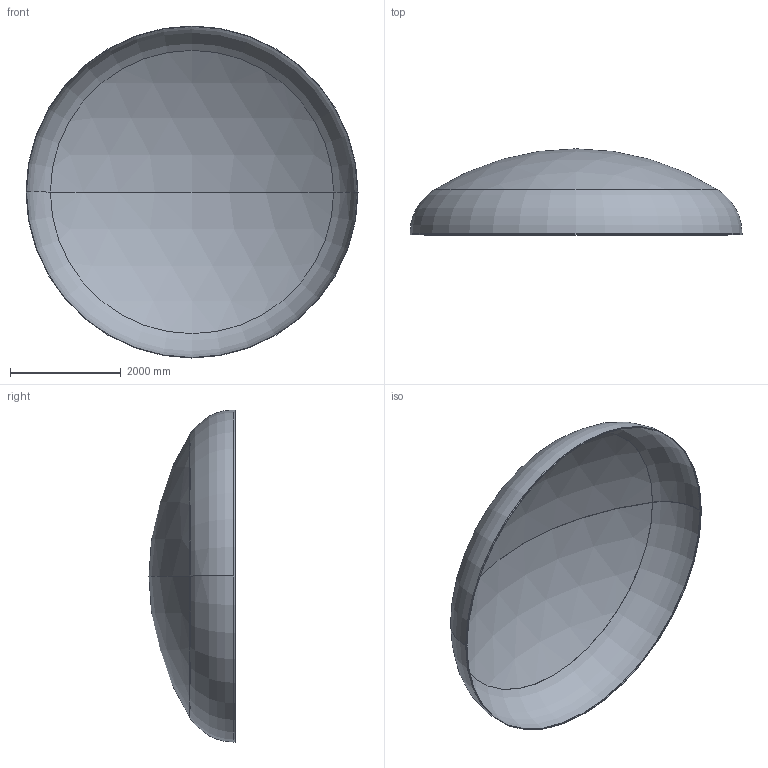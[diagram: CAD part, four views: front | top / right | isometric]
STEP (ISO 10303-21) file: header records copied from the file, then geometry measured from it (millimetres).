
FILE_DESCRIPTION (( 'STEP AP203' ), '1' );
FILE_NAME ('DIN 28013 Korbbogenform_-_Boden DIN 28013 - 6000 x 25 - I - s=8.step', '2016-07-04T10:35:36', ( '' ), ( '' ), 'SwSTEP 2.0', 'SolidWorks 2013', '' );
FILE_SCHEMA (( 'CONFIG_CONTROL_DESIGN' ));
Length unit declared in the file: millimetre
Products named in the file (1): DIN 28013 Korbbogenform_-_Boden DIN 28013 - 6000 x 25 - I - s=8
Bounding box: 6000 x 1555.33 x 6000 mm (x, y, z)
Volume: 316588666.1 mm3; surface area: 79297863 mm2
Topology: 1 solids, 1 shells, 13 faces, 24 edges, 14 vertices
Faces by surface type: torus 4, cylinder 4, sphere 4, plane 1
Entity records: 407 total; most frequent: DIRECTION 72, CARTESIAN_POINT 52, ORIENTED_EDGE 48, AXIS2_PLACEMENT_3D 34, EDGE_CURVE 24, CIRCLE 20, VERTEX_POINT 14, EDGE_LOOP 14
